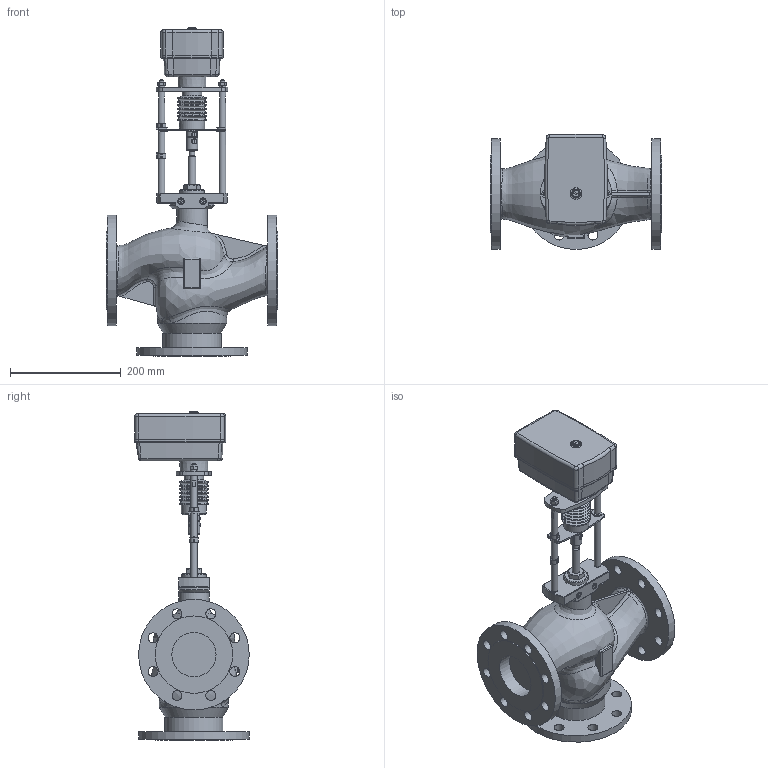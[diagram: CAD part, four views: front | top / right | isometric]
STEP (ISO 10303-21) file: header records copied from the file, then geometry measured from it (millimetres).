
FILE_DESCRIPTION(/* description */ ('Unknown'),/* implementation_level */ '2;1');
FILE_NAME(/* name */ 'TRV-3K-80-100-110',/* time_stamp */ '2023-01-16T14:06:49+03:00',/* author */ ('Unknown'),/* organization */ ('Unknown'),/* preprocessor_version */ 'ST-DEVELOPER v16.7',/* originating_system */ 'DEX',/* authorisation */ $);
FILE_SCHEMA (('AUTOMOTIVE_DESIGN {1 0 10303 214 3 1 1}'));
Length unit declared in the file: millimetre
Products named in the file (3): Êëàïàí DN80-3õ; Äó80-3õ; Ñáîðêà ¹6
Assembly tree (2 placements, depth 2):
  Êëàïàí DN80-3õ
    Äó80-3õ
    Ñáîðêà ¹6
Bounding box: 310 x 206.96 x 594.4 mm (x, y, z)
Volume: 7040039.3 mm3; surface area: 548960.5 mm2
Topology: 2 solids, 7 shells, 657 faces, 1665 edges, 1054 vertices
Faces by surface type: plane 310, cylinder 172, cone 76, bspline 56, torus 35, sphere 8
Full cylindrical faces by diameter (mm): 4.134 x2, 5 x5, 5.2 x5, 6.5 x1, 6.647 x2, 8 x6, 10 x4, 12.002 x4, 13.8 x2, 14 x1, 15 x1, 15.6 x1, 18 x24, 20 x1, 25 x1, 35.098 x1, 44 x2, 44.5 x1, 45.4 x1, 55 x1, 80 x3, 105 x1, 140 x3, 200 x3
Entity records: 26200 total; most frequent: CARTESIAN_POINT 7952, DIRECTION 2922, ORIENTED_EDGE 2898, EDGE_CURVE 1449, AXIS2_PLACEMENT_3D 1170, VERTEX_POINT 981, FACE_BOUND 914, EDGE_LOOP 912
